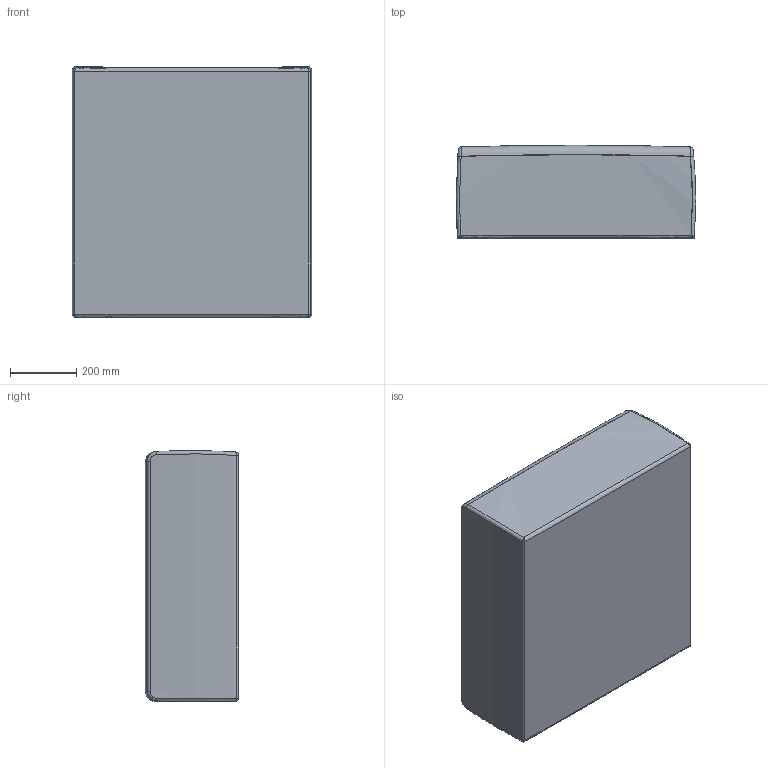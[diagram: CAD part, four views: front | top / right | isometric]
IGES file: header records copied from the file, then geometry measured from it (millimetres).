
Start section: SolidWorks IGES file using NURBS representation for surfaces
Global section: file name: D:\VICCARBE\PRODUCTOS\19-MASS\04-MODELADOS (PLANOS)\SOLIDWORKS\PIEZAS\Seats\01-IGES\VICCARBE_Mass_seat_72.IGS; native system: SolidWorks 2009; preprocessor: SolidWorks 2009; author: RUBEN; date: 110908.162756; units: millimetre
Bounding box: 720.39 x 280 x 754.97 mm (x, y, z)
Surface area: 1842266.8 mm2 (no closed solid volume)
Topology: 0 solids, 0 shells, 28 faces, 322 edges, 318 vertices
Faces by surface type: bspline 28
